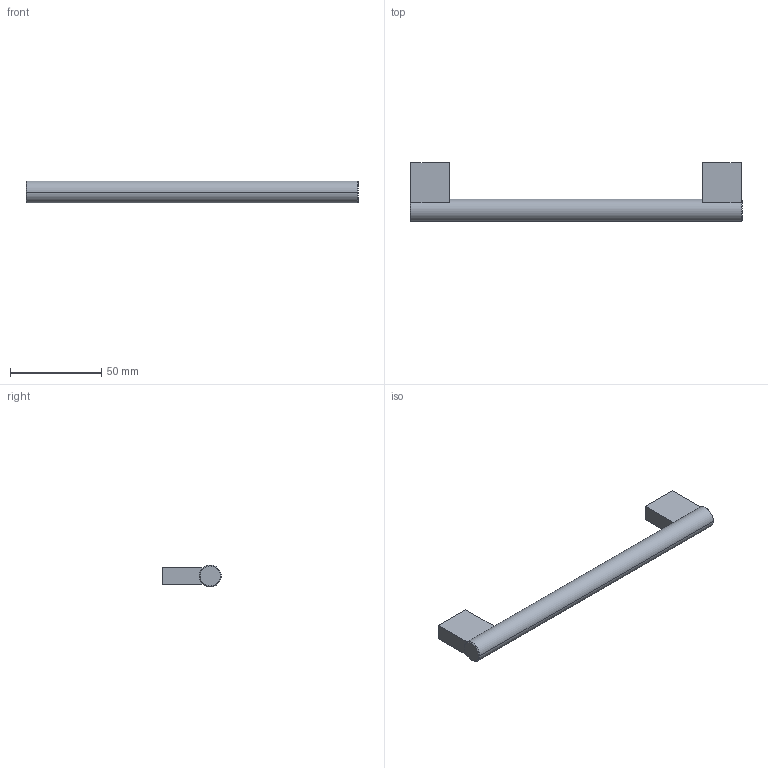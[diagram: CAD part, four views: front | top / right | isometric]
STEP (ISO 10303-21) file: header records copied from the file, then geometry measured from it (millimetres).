
FILE_DESCRIPTION( ( '' ), '1' );
FILE_NAME( 'D:/1.AUTOCAD EXPORT/Group 10/sheet_10_1/ 115244.stp', '2013-10-22T04:03:30', ( '' ), ( '' ), ' ', ' ', ' ' );
FILE_SCHEMA( ( 'automotive_design' ) );
Length unit declared in the file: millimetre
Products named in the file (1): 1
Bounding box: 182 x 32 x 11.97 mm (x, y, z)
Volume: 27977.6 mm3; surface area: 9922.5 mm2
Topology: 1 solids, 1 shells, 24 faces, 54 edges, 34 vertices
Faces by surface type: plane 14, cylinder 6, cone 4
Entity records: 1330 total; most frequent: DIRECTION 128, STYLED_ITEM 113, PRESENTATION_STYLE_ASSIGNMENT 113, CARTESIAN_POINT 113, COLOUR_RGB 113, ORIENTED_EDGE 108, EDGE_CURVE 54, CURVE_STYLE 54
